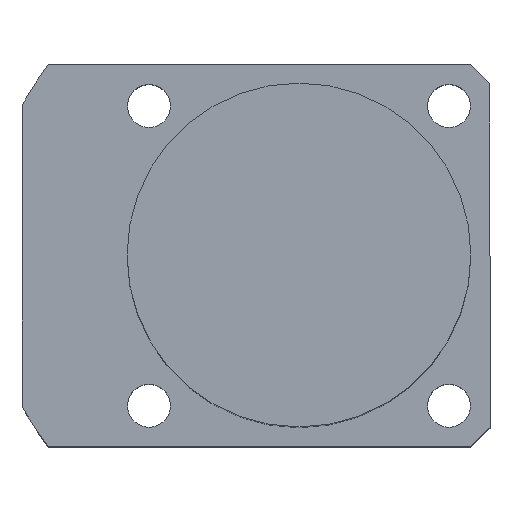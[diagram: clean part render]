
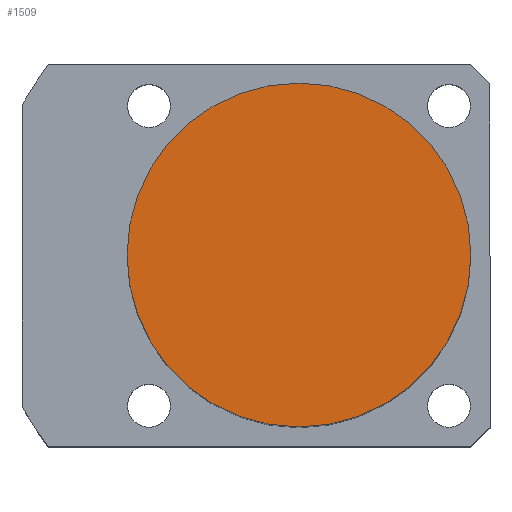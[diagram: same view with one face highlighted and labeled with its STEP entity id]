
A CAD part, top view. The second image highlights one B-rep face of the part: STEP entity #1509.
In plain terms, the highlighted planar face has unit normal (0, 0, 1).
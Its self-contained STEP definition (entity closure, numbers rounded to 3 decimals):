
#3 = CARTESIAN_POINT ( 'NONE',  ( 0., 0., 58.5 ) ) ;
#63 = DIRECTION ( 'NONE',  ( 0., 0., 1. ) ) ;
#96 = VERTEX_POINT ( 'NONE', #821 ) ;
#125 = CARTESIAN_POINT ( 'NONE',  ( 0., 0., 58.5 ) ) ;
#134 = FACE_OUTER_BOUND ( 'NONE', #848, .T. ) ;
#160 = CIRCLE ( 'NONE', #294, 18. ) ;
#294 = AXIS2_PLACEMENT_3D ( 'NONE', #3, #429, #1254 ) ;
#344 = DIRECTION ( 'NONE',  ( 1., 0., 0. ) ) ;
#347 = AXIS2_PLACEMENT_3D ( 'NONE', #1573, #63, #344 ) ;
#419 = DIRECTION ( 'NONE',  ( 1., 0., 0. ) ) ;
#429 = DIRECTION ( 'NONE',  ( 0., 0., 1. ) ) ;
#540 = VERTEX_POINT ( 'NONE', #823 ) ;
#550 = PLANE ( 'NONE',  #685 ) ;
#574 = EDGE_CURVE ( 'NONE', #96, #540, #659, .T. ) ;
#659 = CIRCLE ( 'NONE', #347, 18. ) ;
#685 = AXIS2_PLACEMENT_3D ( 'NONE', #125, #1256, #419 ) ;
#821 = CARTESIAN_POINT ( 'NONE',  ( 18., 0., 58.5 ) ) ;
#823 = CARTESIAN_POINT ( 'NONE',  ( -18., 0., 58.5 ) ) ;
#841 = ORIENTED_EDGE ( 'NONE', *, *, #574, .T. ) ;
#848 = EDGE_LOOP ( 'NONE', ( #1405, #841 ) ) ;
#1163 = EDGE_CURVE ( 'NONE', #540, #96, #160, .T. ) ;
#1254 = DIRECTION ( 'NONE',  ( 1., 0., 0. ) ) ;
#1256 = DIRECTION ( 'NONE',  ( 0., 0., 1. ) ) ;
#1405 = ORIENTED_EDGE ( 'NONE', *, *, #1163, .T. ) ;
#1509 = ADVANCED_FACE ( 'NONE', ( #134 ), #550, .T. ) ;
#1573 = CARTESIAN_POINT ( 'NONE',  ( 0., 0., 58.5 ) ) ;
